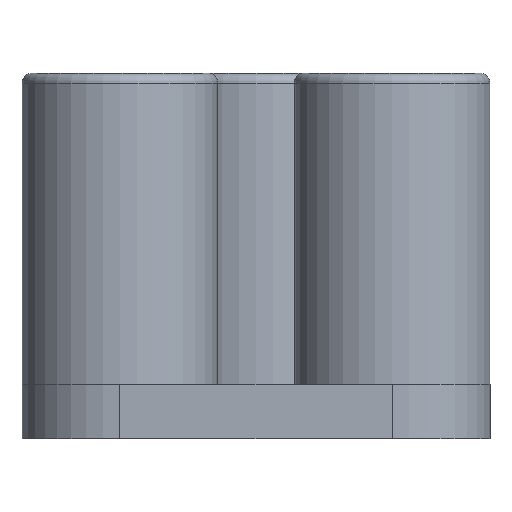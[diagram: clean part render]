
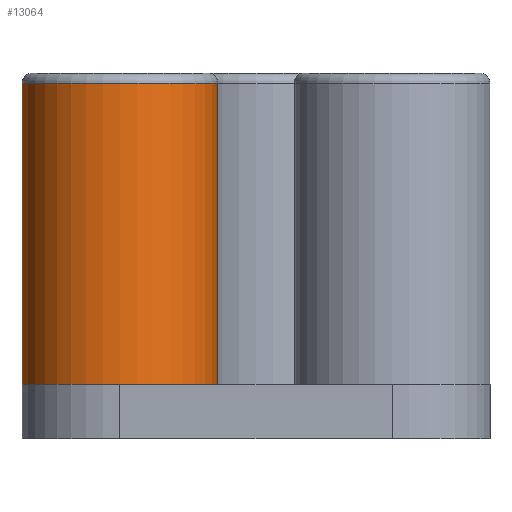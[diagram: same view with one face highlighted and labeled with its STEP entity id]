
A CAD part, front view. The second image highlights one B-rep face of the part: STEP entity #13064.
In plain terms, the highlighted cylindrical face has radius 5.04 mm (diameter 10.08 mm), a full revolution.
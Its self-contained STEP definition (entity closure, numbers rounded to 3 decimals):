
#1449=FACE_OUTER_BOUND('',#2272,.T.);
#2272=EDGE_LOOP('',(#12428,#12429,#12430,#12431));
#2301=CIRCLE('',#13740,5.04);
#2302=CIRCLE('',#13742,5.04);
#4079=LINE('',#20396,#5850);
#5850=VECTOR('',#16773,5.04);
#7044=VERTEX_POINT('',#20390);
#7045=VERTEX_POINT('',#20394);
#8841=EDGE_CURVE('',#7044,#7044,#2301,.T.);
#8842=EDGE_CURVE('',#7045,#7045,#2302,.T.);
#8843=EDGE_CURVE('',#7045,#7044,#4079,.T.);
#12428=ORIENTED_EDGE('',*,*,#8842,.F.);
#12429=ORIENTED_EDGE('',*,*,#8843,.T.);
#12430=ORIENTED_EDGE('',*,*,#8841,.F.);
#12431=ORIENTED_EDGE('',*,*,#8843,.F.);
#12464=CYLINDRICAL_SURFACE('',#13741,5.04);
#13064=ADVANCED_FACE('',(#1449),#12464,.T.);
#13740=AXIS2_PLACEMENT_3D('',#20392,#16767,#16768);
#13741=AXIS2_PLACEMENT_3D('',#20393,#16769,#16770);
#13742=AXIS2_PLACEMENT_3D('',#20395,#16771,#16772);
#16767=DIRECTION('center_axis',(0.,0.,-1.));
#16768=DIRECTION('ref_axis',(-1.,0.,0.));
#16769=DIRECTION('center_axis',(0.,0.,1.));
#16770=DIRECTION('ref_axis',(-1.,0.,0.));
#16771=DIRECTION('center_axis',(0.,0.,1.));
#16772=DIRECTION('ref_axis',(-1.,0.,0.));
#16773=DIRECTION('',(0.,0.,-1.));
#20390=CARTESIAN_POINT('',(5.04,0.,0.5));
#20392=CARTESIAN_POINT('Origin',(0.,0.,0.5));
#20393=CARTESIAN_POINT('Origin',(0.,0.,0.));
#20394=CARTESIAN_POINT('',(5.04,0.,16.));
#20395=CARTESIAN_POINT('Origin',(0.,0.,16.));
#20396=CARTESIAN_POINT('',(5.04,0.,0.));
